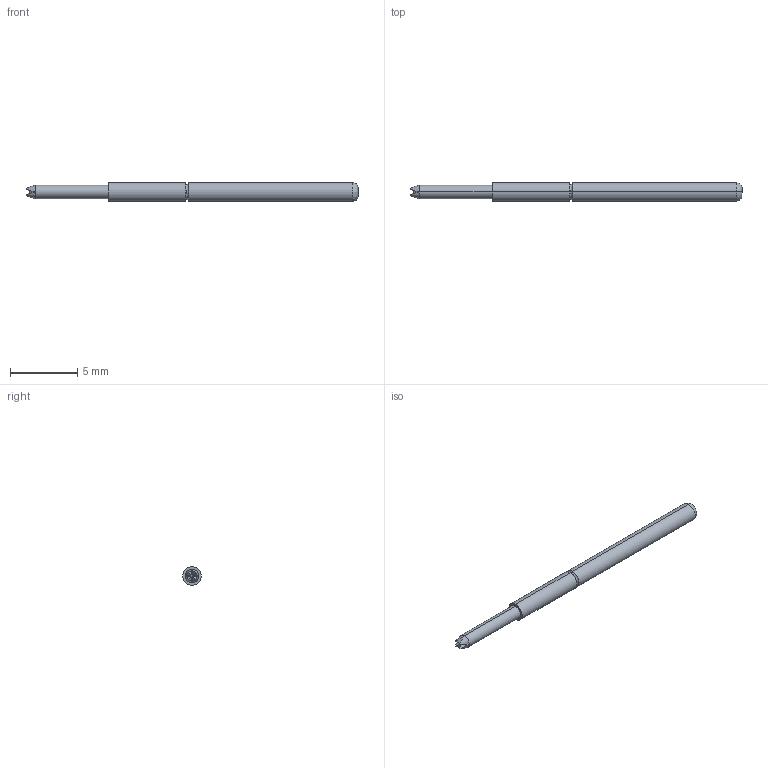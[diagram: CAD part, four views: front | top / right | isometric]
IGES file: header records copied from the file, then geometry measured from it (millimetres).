
Start section: SolidWorks IGES file using analytic representation for surfaces
Global section: file name: O:\PYLON\IGES FILES\P3158\P3158G-2Q1S.IGS; native system: SolidWorks 2015; preprocessor: SolidWorks 2015; author: kgolden; date: 171020.070917; units: inch
Bounding box: 24.64 x 1.37 x 1.37 mm (x, y, z)
Surface area: 106.4 mm2 (no closed solid volume)
Topology: 0 solids, 0 shells, 30 faces, 182 edges, 182 vertices
Faces by surface type: bspline 20, revolution 10
